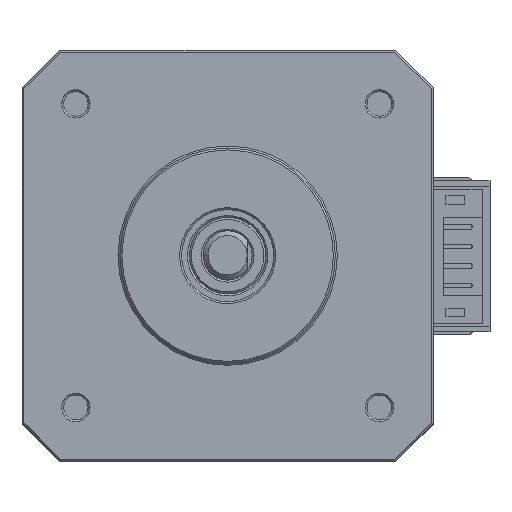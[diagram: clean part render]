
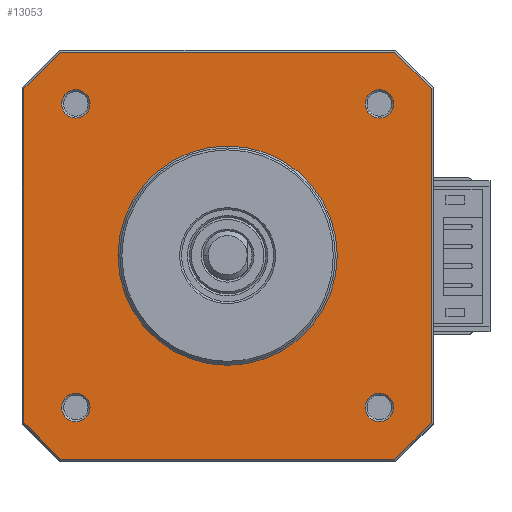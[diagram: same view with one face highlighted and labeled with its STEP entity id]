
A CAD part, top view. The second image highlights one B-rep face of the part: STEP entity #13053.
In plain terms, the highlighted planar face has unit normal (0, 0, 1).
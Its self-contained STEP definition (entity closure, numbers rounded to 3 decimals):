
#422=FACE_BOUND('',#1504,.T.);
#423=FACE_BOUND('',#1505,.T.);
#424=FACE_BOUND('',#1506,.T.);
#425=FACE_BOUND('',#1507,.T.);
#426=FACE_BOUND('',#1508,.T.);
#483=CIRCLE('',#14032,1.45);
#484=CIRCLE('',#14033,1.45);
#485=CIRCLE('',#14034,11.2);
#486=CIRCLE('',#14035,1.45);
#487=CIRCLE('',#14036,1.45);
#757=FACE_OUTER_BOUND('',#1503,.T.);
#1503=EDGE_LOOP('',(#8614,#8615,#8616,#8617,#8618,#8619,#8620,#8621));
#1504=EDGE_LOOP('',(#8622));
#1505=EDGE_LOOP('',(#8623));
#1506=EDGE_LOOP('',(#8624));
#1507=EDGE_LOOP('',(#8625));
#1508=EDGE_LOOP('',(#8626));
#2302=LINE('',#18794,#3853);
#2314=LINE('',#18828,#3865);
#2315=LINE('',#18831,#3866);
#2316=LINE('',#18833,#3867);
#2317=LINE('',#18835,#3868);
#2318=LINE('',#18837,#3869);
#2319=LINE('',#18839,#3870);
#2320=LINE('',#18840,#3871);
#3853=VECTOR('',#15105,1.);
#3865=VECTOR('',#15135,1.);
#3866=VECTOR('',#15138,1.);
#3867=VECTOR('',#15139,1.);
#3868=VECTOR('',#15140,1.);
#3869=VECTOR('',#15141,1.);
#3870=VECTOR('',#15142,1.);
#3871=VECTOR('',#15143,1.);
#5401=VERTEX_POINT('',#18790);
#5402=VERTEX_POINT('',#18792);
#5415=VERTEX_POINT('',#18826);
#5416=VERTEX_POINT('',#18830);
#5417=VERTEX_POINT('',#18832);
#5418=VERTEX_POINT('',#18834);
#5419=VERTEX_POINT('',#18836);
#5420=VERTEX_POINT('',#18838);
#5421=VERTEX_POINT('',#18841);
#5422=VERTEX_POINT('',#18843);
#5423=VERTEX_POINT('',#18845);
#5424=VERTEX_POINT('',#18847);
#5425=VERTEX_POINT('',#18849);
#6655=EDGE_CURVE('',#5401,#5402,#2302,.T.);
#6672=EDGE_CURVE('',#5415,#5401,#2314,.T.);
#6673=EDGE_CURVE('',#5402,#5416,#2315,.T.);
#6674=EDGE_CURVE('',#5416,#5417,#2316,.T.);
#6675=EDGE_CURVE('',#5417,#5418,#2317,.T.);
#6676=EDGE_CURVE('',#5418,#5419,#2318,.T.);
#6677=EDGE_CURVE('',#5419,#5420,#2319,.T.);
#6678=EDGE_CURVE('',#5420,#5415,#2320,.T.);
#6679=EDGE_CURVE('',#5421,#5421,#483,.T.);
#6680=EDGE_CURVE('',#5422,#5422,#484,.T.);
#6681=EDGE_CURVE('',#5423,#5423,#485,.T.);
#6682=EDGE_CURVE('',#5424,#5424,#486,.T.);
#6683=EDGE_CURVE('',#5425,#5425,#487,.T.);
#8614=ORIENTED_EDGE('',*,*,#6655,.T.);
#8615=ORIENTED_EDGE('',*,*,#6673,.T.);
#8616=ORIENTED_EDGE('',*,*,#6674,.T.);
#8617=ORIENTED_EDGE('',*,*,#6675,.T.);
#8618=ORIENTED_EDGE('',*,*,#6676,.T.);
#8619=ORIENTED_EDGE('',*,*,#6677,.T.);
#8620=ORIENTED_EDGE('',*,*,#6678,.T.);
#8621=ORIENTED_EDGE('',*,*,#6672,.T.);
#8622=ORIENTED_EDGE('',*,*,#6679,.F.);
#8623=ORIENTED_EDGE('',*,*,#6680,.F.);
#8624=ORIENTED_EDGE('',*,*,#6681,.F.);
#8625=ORIENTED_EDGE('',*,*,#6682,.F.);
#8626=ORIENTED_EDGE('',*,*,#6683,.F.);
#12446=PLANE('',#14031);
#13053=ADVANCED_FACE('',(#757,#422,#423,#424,#425,#426),#12446,.T.);
#14031=AXIS2_PLACEMENT_3D('',#18829,#15136,#15137);
#14032=AXIS2_PLACEMENT_3D('',#18842,#15144,#15145);
#14033=AXIS2_PLACEMENT_3D('',#18844,#15146,#15147);
#14034=AXIS2_PLACEMENT_3D('',#18846,#15148,#15149);
#14035=AXIS2_PLACEMENT_3D('',#18848,#15150,#15151);
#14036=AXIS2_PLACEMENT_3D('',#18850,#15152,#15153);
#15105=DIRECTION('',(0.,-1.,0.));
#15135=DIRECTION('',(-0.707,-0.707,0.));
#15136=DIRECTION('center_axis',(0.,0.,1.));
#15137=DIRECTION('ref_axis',(1.,0.,0.));
#15138=DIRECTION('',(0.707,-0.707,0.));
#15139=DIRECTION('',(1.,0.,0.));
#15140=DIRECTION('',(0.707,0.707,0.));
#15141=DIRECTION('',(0.,1.,0.));
#15142=DIRECTION('',(-0.707,0.707,0.));
#15143=DIRECTION('',(-1.,0.,0.));
#15144=DIRECTION('center_axis',(0.,0.,1.));
#15145=DIRECTION('ref_axis',(1.,0.,0.));
#15146=DIRECTION('center_axis',(0.,0.,1.));
#15147=DIRECTION('ref_axis',(1.,0.,0.));
#15148=DIRECTION('center_axis',(0.,0.,1.));
#15149=DIRECTION('ref_axis',(1.,0.,0.));
#15150=DIRECTION('center_axis',(0.,0.,1.));
#15151=DIRECTION('ref_axis',(1.,0.,0.));
#15152=DIRECTION('center_axis',(0.,0.,1.));
#15153=DIRECTION('ref_axis',(1.,0.,0.));
#18790=CARTESIAN_POINT('',(-20.8,17.067,0.));
#18792=CARTESIAN_POINT('',(-20.8,-17.067,0.));
#18794=CARTESIAN_POINT('',(-20.8,17.15,0.));
#18826=CARTESIAN_POINT('',(-17.067,20.8,0.));
#18828=CARTESIAN_POINT('',(-17.009,20.859,0.));
#18829=CARTESIAN_POINT('Origin',(0.,0.,0.));
#18830=CARTESIAN_POINT('',(-17.067,-20.8,0.));
#18831=CARTESIAN_POINT('',(-20.859,-17.009,0.));
#18832=CARTESIAN_POINT('',(17.067,-20.8,0.));
#18833=CARTESIAN_POINT('',(-17.15,-20.8,0.));
#18834=CARTESIAN_POINT('',(20.8,-17.067,0.));
#18835=CARTESIAN_POINT('',(17.009,-20.859,0.));
#18836=CARTESIAN_POINT('',(20.8,17.067,0.));
#18837=CARTESIAN_POINT('',(20.8,-17.15,0.));
#18838=CARTESIAN_POINT('',(17.067,20.8,0.));
#18839=CARTESIAN_POINT('',(20.859,17.009,0.));
#18840=CARTESIAN_POINT('',(17.15,20.8,0.));
#18841=CARTESIAN_POINT('',(-16.95,-15.5,0.));
#18842=CARTESIAN_POINT('Origin',(-15.5,-15.5,0.));
#18843=CARTESIAN_POINT('',(-16.95,15.5,0.));
#18844=CARTESIAN_POINT('Origin',(-15.5,15.5,0.));
#18845=CARTESIAN_POINT('',(-11.2,0.,0.));
#18846=CARTESIAN_POINT('Origin',(0.,0.,0.));
#18847=CARTESIAN_POINT('',(14.05,15.5,0.));
#18848=CARTESIAN_POINT('Origin',(15.5,15.5,0.));
#18849=CARTESIAN_POINT('',(14.05,-15.5,0.));
#18850=CARTESIAN_POINT('Origin',(15.5,-15.5,0.));
